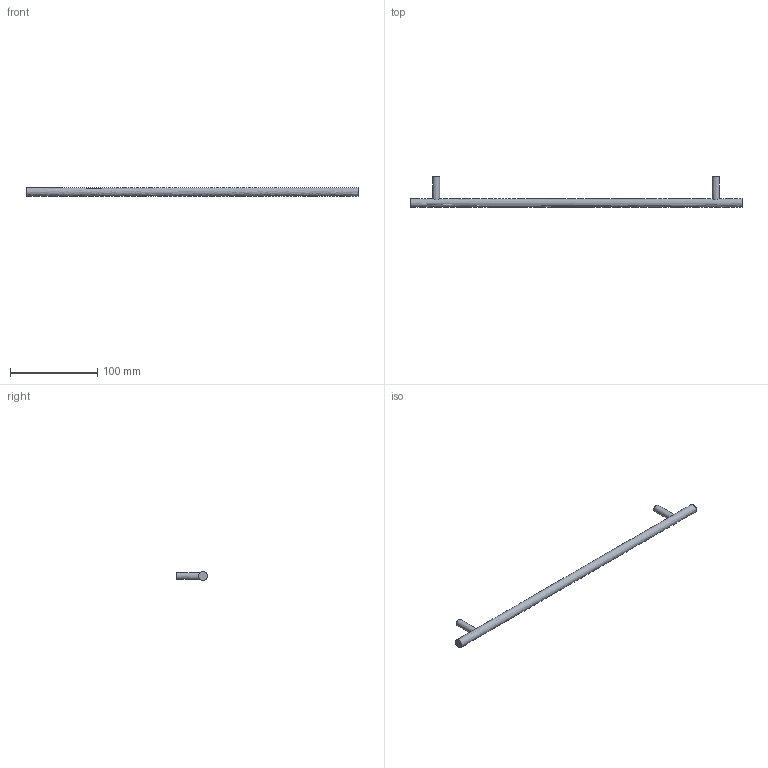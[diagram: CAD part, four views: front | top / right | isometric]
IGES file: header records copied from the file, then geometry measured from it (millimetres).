
Start section: Data from Parasolid IGES Translator 15.0.47, Copyright(c) 2006 Siemens P LM Software. All Rights Reserved.
Global section: file name: 9070993.igs; native system:  By UGS Corp.; preprocessor: XPlus GENERIC/IGES 3.0; author: Noname; organization: Noname; date: 20140122.181241; units: millimetre
Bounding box: 380 x 35 x 10 mm (x, y, z)
Surface area: 13689.4 mm2 (no closed solid volume)
Topology: 0 solids, 0 shells, 11 faces, 30 edges, 22 vertices
Faces by surface type: extrusion 6, revolution 5
